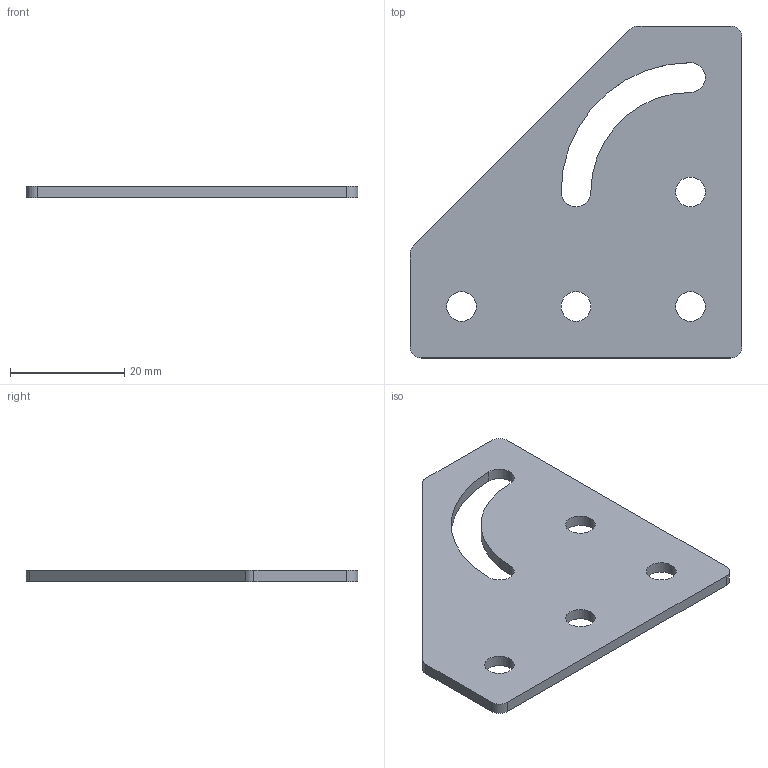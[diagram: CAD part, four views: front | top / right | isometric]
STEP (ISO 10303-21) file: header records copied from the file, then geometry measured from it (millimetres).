
FILE_DESCRIPTION (( 'STEP AP214' ), '1' );
FILE_NAME ('deg90s20.STEP', '2018-03-06T13:42:29', ( '' ), ( '' ), 'SwSTEP 2.0', 'SolidWorks 2014', '' );
FILE_SCHEMA (( 'AUTOMOTIVE_DESIGN' ));
Length unit declared in the file: millimetre
Products named in the file (2): deg90s20
Bounding box: 58 x 58 x 2 mm (x, y, z)
Volume: 4662.4 mm3; surface area: 5364.2 mm2
Topology: 1 solids, 1 shells, 24 faces, 66 edges, 44 vertices
Faces by surface type: cylinder 17, plane 7
Entity records: 853 total; most frequent: DIRECTION 152, CARTESIAN_POINT 136, ORIENTED_EDGE 132, EDGE_CURVE 66, AXIS2_PLACEMENT_3D 60, VERTEX_POINT 44, EDGE_LOOP 34, CIRCLE 34
